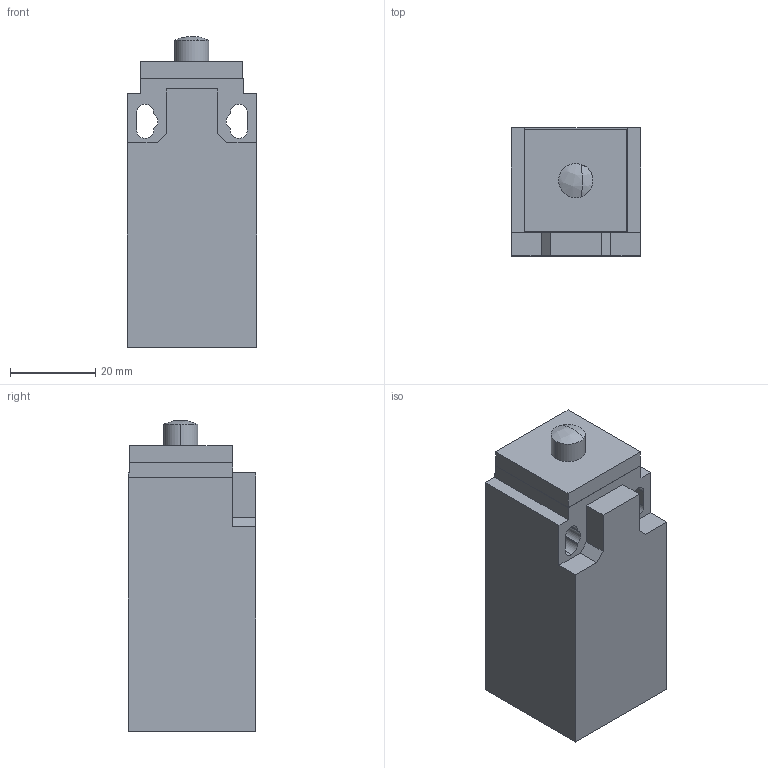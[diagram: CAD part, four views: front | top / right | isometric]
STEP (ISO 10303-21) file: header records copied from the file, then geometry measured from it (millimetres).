
FILE_DESCRIPTION (( 'STEP AP203' ), '1' );
FILE_NAME ('FC-001.STEP', '2016-10-10T08:01:13', ( '' ), ( '' ), 'SwSTEP 2.0', 'SolidWorks 2014', '' );
FILE_SCHEMA (( 'CONFIG_CONTROL_DESIGN' ));
Length unit declared in the file: millimetre
Products named in the file (4): ap1t10z11_01; ap1t10z11_02; ap1t10z11_03; FC-001
Assembly tree (3 placements, depth 2):
  FC-001
    ap1t10z11_01
    ap1t10z11_02
    ap1t10z11_03
Bounding box: 30.3 x 30 x 72.87 mm (x, y, z)
Volume: 51352.7 mm3; surface area: 12912.2 mm2
Topology: 3 solids, 3 shells, 50 faces, 129 edges, 86 vertices
Faces by surface type: plane 34, cylinder 14, bspline 2
Entity records: 1972 total; most frequent: CARTESIAN_POINT 301, DIRECTION 268, ORIENTED_EDGE 258, EDGE_CURVE 129, VECTOR 98, LINE 98, VERTEX_POINT 86, AXIS2_PLACEMENT_3D 85
